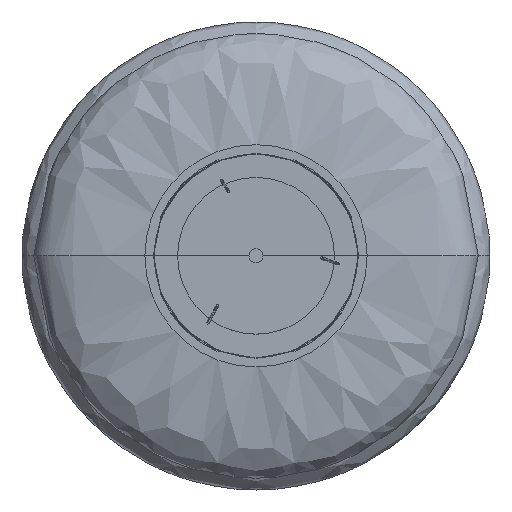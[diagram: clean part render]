
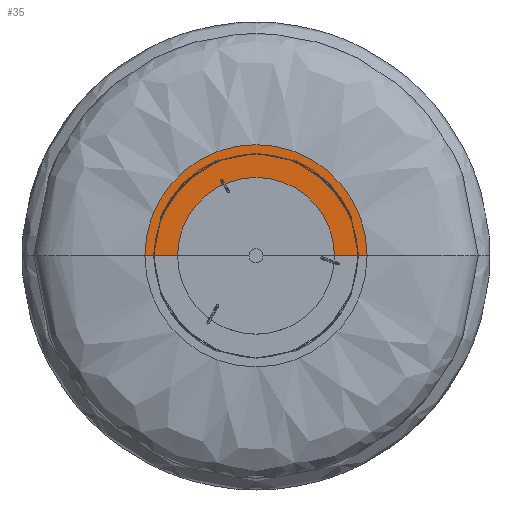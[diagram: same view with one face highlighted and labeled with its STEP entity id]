
A CAD part, top view. The second image highlights one B-rep face of the part: STEP entity #35.
In plain terms, the highlighted planar face has unit normal (0, 0, 1).
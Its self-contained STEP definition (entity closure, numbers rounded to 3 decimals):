
#16=FACE_BOUND('',#86,.T.);
#35=ADVANCED_FACE('',(#59,#16),#325,.T.);
#59=FACE_OUTER_BOUND('',#85,.T.);
#85=EDGE_LOOP('',(#158,#159,#160,#161));
#86=EDGE_LOOP('',(#162,#163));
#158=ORIENTED_EDGE('',*,*,#215,.T.);
#159=ORIENTED_EDGE('',*,*,#189,.T.);
#160=ORIENTED_EDGE('',*,*,#217,.F.);
#161=ORIENTED_EDGE('',*,*,#216,.F.);
#162=ORIENTED_EDGE('',*,*,#222,.F.);
#163=ORIENTED_EDGE('',*,*,#198,.F.);
#189=EDGE_CURVE('',#295,#294,#274,.T.);
#198=EDGE_CURVE('',#299,#311,#230,.T.);
#215=EDGE_CURVE('',#308,#295,#253,.T.);
#216=EDGE_CURVE('',#308,#309,#284,.T.);
#217=EDGE_CURVE('',#309,#294,#254,.T.);
#222=EDGE_CURVE('',#311,#299,#236,.T.);
#230=B_SPLINE_CURVE_WITH_KNOTS('',3,(#1777,#1778,#1779,#1780,#1781,#1782,
#1783,#1784,#1785,#1786,#1787,#1788,#1789,#1790,#1791,#1792,#1793,#1794,
#1795,#1796,#1797,#1798,#1799,#1800),.UNSPECIFIED.,.F.,.F.,(4,3,3,3,3,3,
3,2,4),(0.,0.379,0.79,1.202,1.581,
1.96,2.371,2.767,3.162),
 .UNSPECIFIED.);
#236=B_SPLINE_CURVE_WITH_KNOTS('',3,(#2113,#2114,#2115,#2116,#2117,#2118,
#2119,#2120,#2121,#2122,#2123,#2124,#2125,#2126,#2127,#2128,#2129,#2130,
#2131,#2132,#2133,#2134,#2135),.UNSPECIFIED.,.F.,.F.,(4,2,3,3,3,3,3,2,4),
(3.162,3.557,3.952,4.363,4.743,
5.122,5.533,5.928,6.323),
 .UNSPECIFIED.);
#253=TRIMMED_CURVE($,#267,(#2056),(#2057),.T.,.CARTESIAN.);
#254=TRIMMED_CURVE($,#268,(#2065),(#2066),.T.,.CARTESIAN.);
#267=CIRCLE('',#456,95.);
#268=CIRCLE('',#457,67.);
#274=(
BOUNDED_CURVE()
B_SPLINE_CURVE(5,(#1741,#1742,#1743,#1744,#1745,#1746),.UNSPECIFIED.,.F.,
 .F.)
B_SPLINE_CURVE_WITH_KNOTS((6,6),(94.981,208.056),
 .UNSPECIFIED.)
CURVE()
GEOMETRIC_REPRESENTATION_ITEM()
RATIONAL_B_SPLINE_CURVE((1.,1.,1.,1.,1.,1.))
REPRESENTATION_ITEM('')
);
#284=(
BOUNDED_CURVE()
B_SPLINE_CURVE(5,(#2058,#2059,#2060,#2061,#2062,#2063),.UNSPECIFIED.,.F.,
 .F.)
B_SPLINE_CURVE_WITH_KNOTS((6,6),(94.981,208.056),
 .UNSPECIFIED.)
CURVE()
GEOMETRIC_REPRESENTATION_ITEM()
RATIONAL_B_SPLINE_CURVE((1.,1.,1.,1.,1.,1.))
REPRESENTATION_ITEM('')
);
#294=VERTEX_POINT('',#1646);
#295=VERTEX_POINT('',#1647);
#299=VERTEX_POINT('',#1651);
#308=VERTEX_POINT('',#1660);
#309=VERTEX_POINT('',#1661);
#311=VERTEX_POINT('',#1663);
#325=PLANE('',#442);
#442=AXIS2_PLACEMENT_3D('',#1317,#475,$);
#456=AXIS2_PLACEMENT_3D($,#2055,#500,#501);
#457=AXIS2_PLACEMENT_3D($,#2064,#502,#503);
#475=DIRECTION('',(0.,0.,1.));
#500=DIRECTION('',(0.,0.,1.));
#501=DIRECTION('',(1.,0.,0.));
#502=DIRECTION('',(0.,0.,1.));
#503=DIRECTION('',(1.,0.,0.));
#1317=CARTESIAN_POINT('',(95.,0.,-2.));
#1646=CARTESIAN_POINT('',(-67.,0.,-2.));
#1647=CARTESIAN_POINT('',(-95.,0.,-2.));
#1651=CARTESIAN_POINT('',(-28.801,63.27,-2.));
#1660=CARTESIAN_POINT('',(95.,0.,-2.));
#1661=CARTESIAN_POINT('',(67.,0.,-2.));
#1663=CARTESIAN_POINT('',(-29.63,65.09,-2.));
#1741=CARTESIAN_POINT('',(-95.,0.,-2.));
#1742=CARTESIAN_POINT('',(-89.4,0.,-2.));
#1743=CARTESIAN_POINT('',(-83.8,0.,-2.));
#1744=CARTESIAN_POINT('',(-78.2,0.,-2.));
#1745=CARTESIAN_POINT('',(-72.6,0.,-2.));
#1746=CARTESIAN_POINT('',(-67.,0.,-2.));
#1777=CARTESIAN_POINT('',(-28.801,63.27,-2.));
#1778=CARTESIAN_POINT('',(-28.687,63.322,-2.));
#1779=CARTESIAN_POINT('',(-28.583,63.396,-2.));
#1780=CARTESIAN_POINT('',(-28.495,63.487,-2.));
#1781=CARTESIAN_POINT('',(-28.401,63.585,-2.));
#1782=CARTESIAN_POINT('',(-28.327,63.702,-2.));
#1783=CARTESIAN_POINT('',(-28.279,63.83,-2.));
#1784=CARTESIAN_POINT('',(-28.231,63.958,-2.));
#1785=CARTESIAN_POINT('',(-28.21,64.094,-2.));
#1786=CARTESIAN_POINT('',(-28.217,64.23,-2.));
#1787=CARTESIAN_POINT('',(-28.223,64.356,-2.));
#1788=CARTESIAN_POINT('',(-28.253,64.48,-2.));
#1789=CARTESIAN_POINT('',(-28.305,64.595,-2.));
#1790=CARTESIAN_POINT('',(-28.358,64.709,-2.));
#1791=CARTESIAN_POINT('',(-28.431,64.813,-2.));
#1792=CARTESIAN_POINT('',(-28.522,64.9,-2.));
#1793=CARTESIAN_POINT('',(-28.62,64.995,-2.));
#1794=CARTESIAN_POINT('',(-28.737,65.069,-2.));
#1795=CARTESIAN_POINT('',(-28.865,65.117,-2.));
#1796=CARTESIAN_POINT('',(-28.988,65.163,-2.));
#1797=CARTESIAN_POINT('',(-29.119,65.184,-2.));
#1798=CARTESIAN_POINT('',(-29.381,65.175,-2.));
#1799=CARTESIAN_POINT('',(-29.51,65.145,-2.));
#1800=CARTESIAN_POINT('',(-29.63,65.09,-2.));
#2055=CARTESIAN_POINT('',(0.,0.,-2.));
#2056=CARTESIAN_POINT('',(95.,0.,-2.));
#2057=CARTESIAN_POINT('',(-95.,0.,-2.));
#2058=CARTESIAN_POINT('',(95.,0.,-2.));
#2059=CARTESIAN_POINT('',(89.4,0.,-2.));
#2060=CARTESIAN_POINT('',(83.8,0.,-2.));
#2061=CARTESIAN_POINT('',(78.2,0.,-2.));
#2062=CARTESIAN_POINT('',(72.6,0.,-2.));
#2063=CARTESIAN_POINT('',(67.,0.,-2.));
#2064=CARTESIAN_POINT('',(0.,0.,-2.));
#2065=CARTESIAN_POINT('',(67.,0.,-2.));
#2066=CARTESIAN_POINT('',(-67.,0.,-2.));
#2113=CARTESIAN_POINT('',(-29.63,65.09,-2.));
#2114=CARTESIAN_POINT('',(-29.749,65.036,-2.));
#2115=CARTESIAN_POINT('',(-29.857,64.958,-2.));
#2116=CARTESIAN_POINT('',(-30.036,64.766,-2.));
#2117=CARTESIAN_POINT('',(-30.106,64.654,-2.));
#2118=CARTESIAN_POINT('',(-30.152,64.531,-2.));
#2119=CARTESIAN_POINT('',(-30.2,64.403,-2.));
#2120=CARTESIAN_POINT('',(-30.221,64.266,-2.));
#2121=CARTESIAN_POINT('',(-30.214,64.13,-2.));
#2122=CARTESIAN_POINT('',(-30.208,64.004,-2.));
#2123=CARTESIAN_POINT('',(-30.178,63.881,-2.));
#2124=CARTESIAN_POINT('',(-30.126,63.766,-2.));
#2125=CARTESIAN_POINT('',(-30.073,63.651,-2.));
#2126=CARTESIAN_POINT('',(-30.,63.547,-2.));
#2127=CARTESIAN_POINT('',(-29.909,63.46,-2.));
#2128=CARTESIAN_POINT('',(-29.811,63.365,-2.));
#2129=CARTESIAN_POINT('',(-29.694,63.292,-2.));
#2130=CARTESIAN_POINT('',(-29.566,63.244,-2.));
#2131=CARTESIAN_POINT('',(-29.443,63.198,-2.));
#2132=CARTESIAN_POINT('',(-29.312,63.176,-2.));
#2133=CARTESIAN_POINT('',(-29.05,63.185,-2.));
#2134=CARTESIAN_POINT('',(-28.921,63.216,-2.));
#2135=CARTESIAN_POINT('',(-28.801,63.27,-2.));
